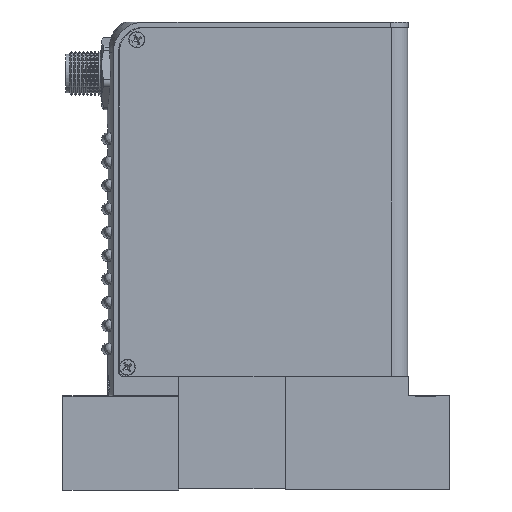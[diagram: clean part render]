
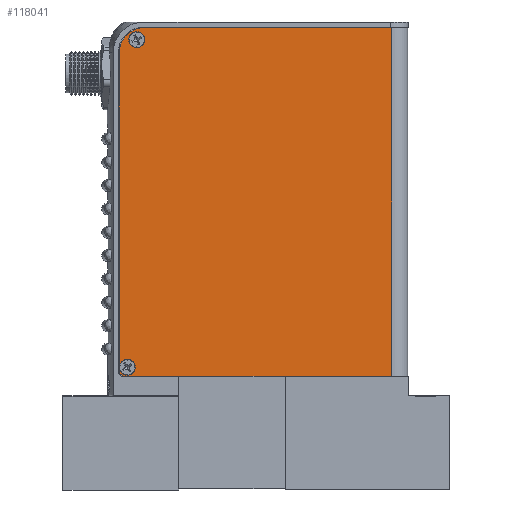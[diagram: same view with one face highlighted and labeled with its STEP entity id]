
A CAD part, top view. The second image highlights one B-rep face of the part: STEP entity #118041.
In plain terms, the highlighted planar face has unit normal (0, 0, 1).
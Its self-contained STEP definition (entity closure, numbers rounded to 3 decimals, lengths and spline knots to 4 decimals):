
#2244 = CIRCLE ( 'NONE', #70102, 0.086 ) ;
#4522 = LINE ( 'NONE', #23328, #23429 ) ;
#5684 = CARTESIAN_POINT ( 'NONE',  ( -1.2074, 4.9322, 0.56 ) ) ;
#6350 = EDGE_CURVE ( 'NONE', #14638, #119077, #63293, .T. ) ;
#6539 = AXIS2_PLACEMENT_3D ( 'NONE', #64998, #28552, #119092 ) ;
#10598 = CARTESIAN_POINT ( 'NONE',  ( -1.1194, 1.2992, 0.56 ) ) ;
#10892 = VERTEX_POINT ( 'NONE', #81274 ) ;
#10954 = EDGE_LOOP ( 'NONE', ( #56811, #74000, #93207, #80437, #50838, #80662 ) ) ;
#11034 = CARTESIAN_POINT ( 'NONE',  ( -1.2074, 1.2642, 0.56 ) ) ;
#14638 = VERTEX_POINT ( 'NONE', #85375 ) ;
#15019 = VECTOR ( 'NONE', #18948, 39.3701 ) ;
#15154 = AXIS2_PLACEMENT_3D ( 'NONE', #63019, #34516, #43041 ) ;
#15358 = VERTEX_POINT ( 'NONE', #56905 ) ;
#16324 = FACE_BOUND ( 'NONE', #83779, .T. ) ;
#17225 = EDGE_CURVE ( 'NONE', #117715, #101883, #111368, .T. ) ;
#18948 = DIRECTION ( 'NONE',  ( 1., 0., 0. ) ) ;
#20001 = EDGE_CURVE ( 'NONE', #60433, #109951, #96759, .T. ) ;
#22969 = ORIENTED_EDGE ( 'NONE', *, *, #44395, .F. ) ;
#23328 = CARTESIAN_POINT ( 'NONE',  ( 1.7116, 4.9322, 0.56 ) ) ;
#23429 = VECTOR ( 'NONE', #59748, 39.3701 ) ;
#25005 = AXIS2_PLACEMENT_3D ( 'NONE', #39165, #40380, #77414 ) ;
#25384 = CARTESIAN_POINT ( 'NONE',  ( 1.7116, 4.9322, 0.56 ) ) ;
#28552 = DIRECTION ( 'NONE',  ( 0., 0., 1. ) ) ;
#30604 = CIRCLE ( 'NONE', #15154, 0.063 ) ;
#34516 = DIRECTION ( 'NONE',  ( 0., 0., 1. ) ) ;
#35076 = DIRECTION ( 'NONE',  ( 0., -1., 0. ) ) ;
#35373 = DIRECTION ( 'NONE',  ( 0., -1., 0. ) ) ;
#36601 = CIRCLE ( 'NONE', #90871, 0.27 ) ;
#36914 = FACE_OUTER_BOUND ( 'NONE', #10954, .T. ) ;
#38296 = CARTESIAN_POINT ( 'NONE',  ( -1.1194, 1.2992, 0.56 ) ) ;
#38506 = CARTESIAN_POINT ( 'NONE',  ( -1.0174, 4.8892, 0.56 ) ) ;
#39165 = CARTESIAN_POINT ( 'NONE',  ( -1.0174, 4.8032, 0.56 ) ) ;
#40380 = DIRECTION ( 'NONE',  ( 0., 0., 1. ) ) ;
#42634 = ORIENTED_EDGE ( 'NONE', *, *, #20001, .F. ) ;
#43041 = DIRECTION ( 'NONE',  ( -1., 0., 0. ) ) ;
#44254 = FACE_BOUND ( 'NONE', #91063, .T. ) ;
#44395 = EDGE_CURVE ( 'NONE', #101883, #117715, #2244, .T. ) ;
#46887 = VECTOR ( 'NONE', #35076, 39.3701 ) ;
#47590 = DIRECTION ( 'NONE',  ( 0., -1., 0. ) ) ;
#49592 = CARTESIAN_POINT ( 'NONE',  ( -1.0174, 4.7172, 0.56 ) ) ;
#50838 = ORIENTED_EDGE ( 'NONE', *, *, #104827, .F. ) ;
#53774 = ORIENTED_EDGE ( 'NONE', *, *, #80962, .F. ) ;
#54553 = CARTESIAN_POINT ( 'NONE',  ( -1.1194, 1.2132, 0.56 ) ) ;
#55344 = CARTESIAN_POINT ( 'NONE',  ( 1.7116, 4.9322, 0.56 ) ) ;
#56811 = ORIENTED_EDGE ( 'NONE', *, *, #6350, .T. ) ;
#56905 = CARTESIAN_POINT ( 'NONE',  ( -1.1444, 1.2012, 0.56 ) ) ;
#59748 = DIRECTION ( 'NONE',  ( 1., 0., 0. ) ) ;
#60433 = VERTEX_POINT ( 'NONE', #38506 ) ;
#63019 = CARTESIAN_POINT ( 'NONE',  ( -1.1444, 1.2642, 0.56 ) ) ;
#63293 = LINE ( 'NONE', #5684, #101841 ) ;
#64049 = VERTEX_POINT ( 'NONE', #84582 ) ;
#64451 = DIRECTION ( 'NONE',  ( -1., 0., 0. ) ) ;
#64998 = CARTESIAN_POINT ( 'NONE',  ( -1.0174, 4.8032, 0.56 ) ) ;
#66249 = LINE ( 'NONE', #92996, #15019 ) ;
#67046 = DIRECTION ( 'NONE',  ( 0., 0., 1. ) ) ;
#70102 = AXIS2_PLACEMENT_3D ( 'NONE', #10598, #67046, #47590 ) ;
#70999 = DIRECTION ( 'NONE',  ( -1., 0., 0. ) ) ;
#72159 = PLANE ( 'NONE',  #98386 ) ;
#73574 = DIRECTION ( 'NONE',  ( 0., 0., -1. ) ) ;
#74000 = ORIENTED_EDGE ( 'NONE', *, *, #100837, .T. ) ;
#75331 = DIRECTION ( 'NONE',  ( 0., -1., 0. ) ) ;
#77414 = DIRECTION ( 'NONE',  ( 0., -1., 0. ) ) ;
#80020 = LINE ( 'NONE', #25384, #46887 ) ;
#80437 = ORIENTED_EDGE ( 'NONE', *, *, #109110, .F. ) ;
#80662 = ORIENTED_EDGE ( 'NONE', *, *, #101847, .T. ) ;
#80857 = CARTESIAN_POINT ( 'NONE',  ( -1.1194, 1.3852, 0.56 ) ) ;
#80962 = EDGE_CURVE ( 'NONE', #109951, #60433, #87994, .T. ) ;
#81274 = CARTESIAN_POINT ( 'NONE',  ( 1.7116, 1.2012, 0.56 ) ) ;
#82025 = DIRECTION ( 'NONE',  ( 0., 0., 1. ) ) ;
#83779 = EDGE_LOOP ( 'NONE', ( #53774, #42634 ) ) ;
#84541 = VERTEX_POINT ( 'NONE', #113144 ) ;
#84582 = CARTESIAN_POINT ( 'NONE',  ( 1.7116, 4.9322, 0.56 ) ) ;
#85375 = CARTESIAN_POINT ( 'NONE',  ( -1.2074, 4.6622, 0.56 ) ) ;
#86095 = AXIS2_PLACEMENT_3D ( 'NONE', #38296, #82025, #75331 ) ;
#87994 = CIRCLE ( 'NONE', #6539, 0.086 ) ;
#90871 = AXIS2_PLACEMENT_3D ( 'NONE', #100109, #118955, #70999 ) ;
#91063 = EDGE_LOOP ( 'NONE', ( #22969, #98272 ) ) ;
#92996 = CARTESIAN_POINT ( 'NONE',  ( 1.7116, 1.2012, 0.56 ) ) ;
#93207 = ORIENTED_EDGE ( 'NONE', *, *, #118129, .T. ) ;
#96759 = CIRCLE ( 'NONE', #25005, 0.086 ) ;
#98272 = ORIENTED_EDGE ( 'NONE', *, *, #17225, .F. ) ;
#98386 = AXIS2_PLACEMENT_3D ( 'NONE', #55344, #73574, #64451 ) ;
#100109 = CARTESIAN_POINT ( 'NONE',  ( -0.9374, 4.6622, 0.56 ) ) ;
#100837 = EDGE_CURVE ( 'NONE', #119077, #15358, #30604, .T. ) ;
#101841 = VECTOR ( 'NONE', #35373, 39.3701 ) ;
#101847 = EDGE_CURVE ( 'NONE', #84541, #14638, #36601, .T. ) ;
#101883 = VERTEX_POINT ( 'NONE', #54553 ) ;
#104827 = EDGE_CURVE ( 'NONE', #84541, #64049, #4522, .T. ) ;
#109110 = EDGE_CURVE ( 'NONE', #64049, #10892, #80020, .T. ) ;
#109951 = VERTEX_POINT ( 'NONE', #49592 ) ;
#111368 = CIRCLE ( 'NONE', #86095, 0.086 ) ;
#113144 = CARTESIAN_POINT ( 'NONE',  ( -0.9374, 4.9322, 0.56 ) ) ;
#117715 = VERTEX_POINT ( 'NONE', #80857 ) ;
#118041 = ADVANCED_FACE ( 'NONE', ( #36914, #16324, #44254 ), #72159, .F. ) ;
#118129 = EDGE_CURVE ( 'NONE', #15358, #10892, #66249, .T. ) ;
#118955 = DIRECTION ( 'NONE',  ( 0., 0., 1. ) ) ;
#119077 = VERTEX_POINT ( 'NONE', #11034 ) ;
#119092 = DIRECTION ( 'NONE',  ( 0., -1., 0. ) ) ;
